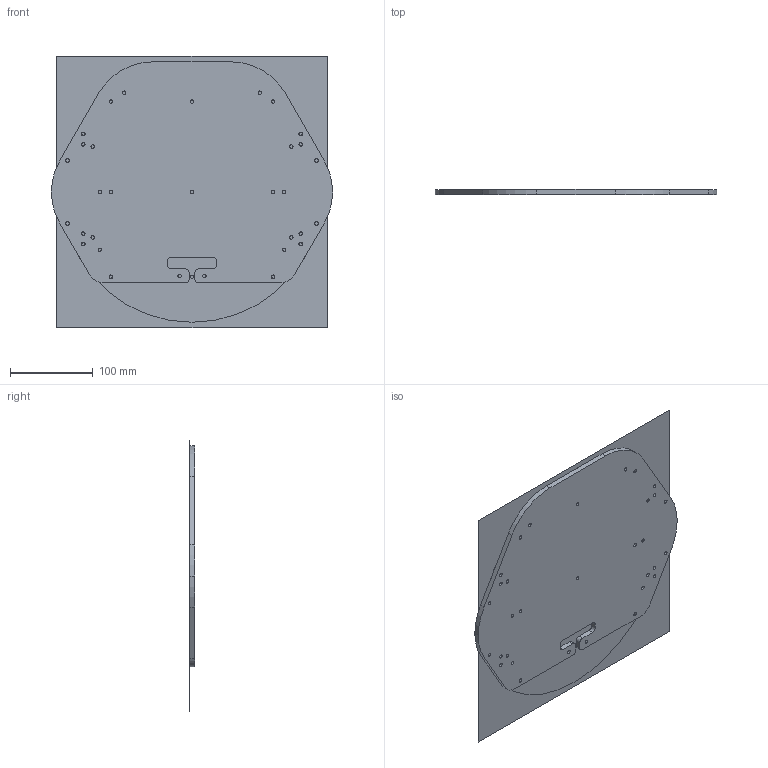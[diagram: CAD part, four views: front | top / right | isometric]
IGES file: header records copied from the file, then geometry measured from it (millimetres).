
Start section:  PTC IGES file: disk_01.igs
Global section: file name: disk_01.igs; native system: Creo Elements/Pro by Parametric Technology Corporation; preprocessor: 2010480; author: asus; organization: Unknown; date: 20121101.191136; units: millimetre
Bounding box: 340 x 6.4 x 327.78 mm (x, y, z)
Volume: 438920.8 mm3; surface area: 418451 mm2
Topology: 1 solids, 2 shells, 98 faces, 374 edges, 324 vertices
Faces by surface type: revolution 80, bspline 18
